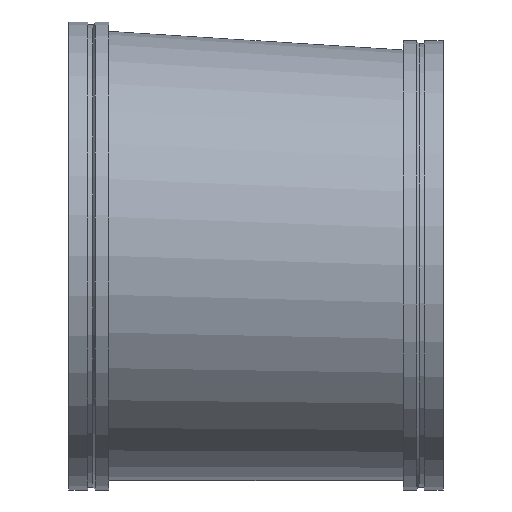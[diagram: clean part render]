
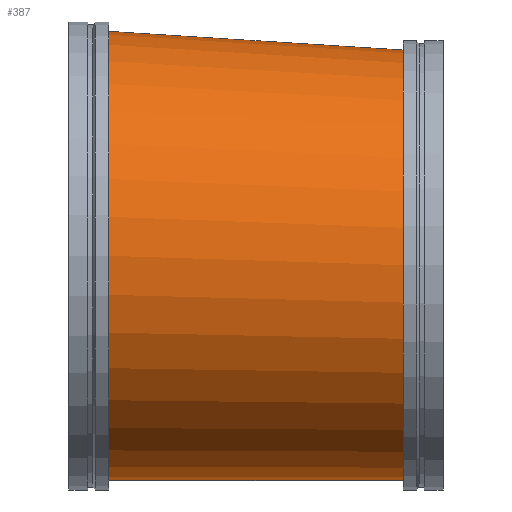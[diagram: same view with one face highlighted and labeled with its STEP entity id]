
A CAD part, top view. The second image highlights one B-rep face of the part: STEP entity #387.
In plain terms, the highlighted free-form (B-spline) face has degree [1, 2] with [2, 9] control points.
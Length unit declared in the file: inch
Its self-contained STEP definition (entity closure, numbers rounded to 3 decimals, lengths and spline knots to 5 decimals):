
#46=B_SPLINE_CURVE_WITH_KNOTS('',1,(#747,#748),.UNSPECIFIED.,.F.,.F.,(2,
2),(-1.31385,-0.00003),.UNSPECIFIED.);
#48=(
BOUNDED_SURFACE()
B_SPLINE_SURFACE(1,2,((#729,#730,#731,#732,#733,#734,#735,#736,#737),(#738,
#739,#740,#741,#742,#743,#744,#745,#746)),.UNSPECIFIED.,.F.,.T.,.F.)
B_SPLINE_SURFACE_WITH_KNOTS((2,2),(3,2,2,2,3),(-0.03171,1.34479),
(-3.14159,-1.5708,0.,1.5708,3.14159),
 .UNSPECIFIED.)
GEOMETRIC_REPRESENTATION_ITEM()
RATIONAL_B_SPLINE_SURFACE(((1.,0.707,1.,0.707,1.,
0.707,1.,0.707,1.),(1.,0.707,1.,0.707,
1.,0.707,1.,0.707,1.)))
REPRESENTATION_ITEM('')
SURFACE()
);
#98=FACE_OUTER_BOUND('',#120,.T.);
#120=EDGE_LOOP('',(#321,#322,#323,#324,#325,#326));
#129=CIRCLE('',#415,23.);
#130=CIRCLE('',#416,23.);
#153=CIRCLE('',#450,24.);
#154=CIRCLE('',#451,24.);
#166=VERTEX_POINT('',#628);
#167=VERTEX_POINT('',#629);
#190=VERTEX_POINT('',#695);
#191=VERTEX_POINT('',#696);
#203=EDGE_CURVE('',#166,#167,#129,.T.);
#204=EDGE_CURVE('',#167,#166,#130,.T.);
#235=EDGE_CURVE('',#190,#191,#153,.T.);
#236=EDGE_CURVE('',#191,#190,#154,.T.);
#243=EDGE_CURVE('',#167,#191,#46,.T.);
#321=ORIENTED_EDGE('',*,*,#203,.T.);
#322=ORIENTED_EDGE('',*,*,#243,.T.);
#323=ORIENTED_EDGE('',*,*,#236,.T.);
#324=ORIENTED_EDGE('',*,*,#235,.T.);
#325=ORIENTED_EDGE('',*,*,#243,.F.);
#326=ORIENTED_EDGE('',*,*,#204,.T.);
#387=ADVANCED_FACE('',(#98),#48,.F.);
#415=AXIS2_PLACEMENT_3D('',#630,#486,#487);
#416=AXIS2_PLACEMENT_3D('',#631,#488,#489);
#450=AXIS2_PLACEMENT_3D('',#697,#564,#565);
#451=AXIS2_PLACEMENT_3D('',#698,#566,#567);
#486=DIRECTION('center_axis',(-1.,0.,0.));
#487=DIRECTION('ref_axis',(0.,-1.,0.));
#488=DIRECTION('center_axis',(-1.,0.,0.));
#489=DIRECTION('ref_axis',(0.,-1.,0.));
#564=DIRECTION('center_axis',(1.,0.,0.));
#565=DIRECTION('ref_axis',(0.,1.,0.));
#566=DIRECTION('center_axis',(1.,0.,0.));
#567=DIRECTION('ref_axis',(0.,1.,0.));
#628=CARTESIAN_POINT('',(35.75,22.,0.));
#629=CARTESIAN_POINT('',(35.75,-1.02313,22.99999));
#630=CARTESIAN_POINT('Origin',(35.75,-1.,0.));
#631=CARTESIAN_POINT('Origin',(35.75,-1.,0.));
#695=CARTESIAN_POINT('',(4.25,24.,0.));
#696=CARTESIAN_POINT('',(4.25,-0.02414,23.99999));
#697=CARTESIAN_POINT('Origin',(4.25,0.,0.));
#698=CARTESIAN_POINT('Origin',(4.25,0.,0.));
#729=CARTESIAN_POINT('Ctrl Pts',(3.48886,0.,
24.02415));
#730=CARTESIAN_POINT('Ctrl Pts',(2.72772,-24.,24.02415));
#731=CARTESIAN_POINT('Ctrl Pts',(2.72772,-24.,0.));
#732=CARTESIAN_POINT('Ctrl Pts',(2.72772,-24.,-24.02415));
#733=CARTESIAN_POINT('Ctrl Pts',(3.48886,0.,
-24.02415));
#734=CARTESIAN_POINT('Ctrl Pts',(4.25,24.,-24.02415));
#735=CARTESIAN_POINT('Ctrl Pts',(4.25,24.,0.));
#736=CARTESIAN_POINT('Ctrl Pts',(4.25,24.,24.02415));
#737=CARTESIAN_POINT('Ctrl Pts',(3.48886,0.,
24.02415));
#738=CARTESIAN_POINT('Ctrl Pts',(36.49183,-1.04666,22.97644));
#739=CARTESIAN_POINT('Ctrl Pts',(35.76389,-24.,22.97644));
#740=CARTESIAN_POINT('Ctrl Pts',(35.76389,-24.,0.));
#741=CARTESIAN_POINT('Ctrl Pts',(35.76389,-24.,-22.97644));
#742=CARTESIAN_POINT('Ctrl Pts',(36.49183,-1.04666,-22.97644));
#743=CARTESIAN_POINT('Ctrl Pts',(37.21978,21.90668,-22.97644));
#744=CARTESIAN_POINT('Ctrl Pts',(37.21978,21.90668,0.));
#745=CARTESIAN_POINT('Ctrl Pts',(37.21978,21.90668,22.97644));
#746=CARTESIAN_POINT('Ctrl Pts',(36.49183,-1.04666,22.97644));
#747=CARTESIAN_POINT('Ctrl Pts',(35.75,-1.02313,22.99999));
#748=CARTESIAN_POINT('Ctrl Pts',(4.25,-0.02414,23.99999));
